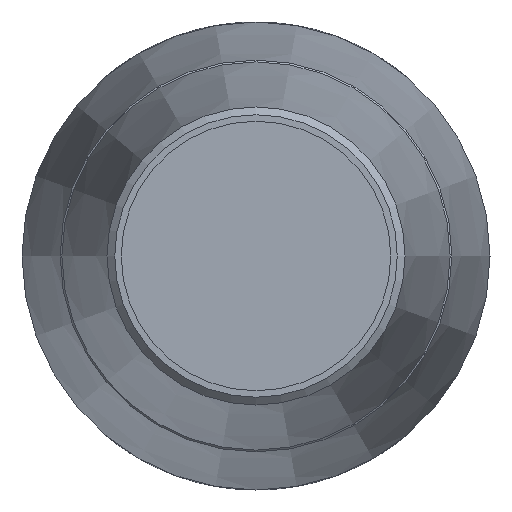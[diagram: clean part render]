
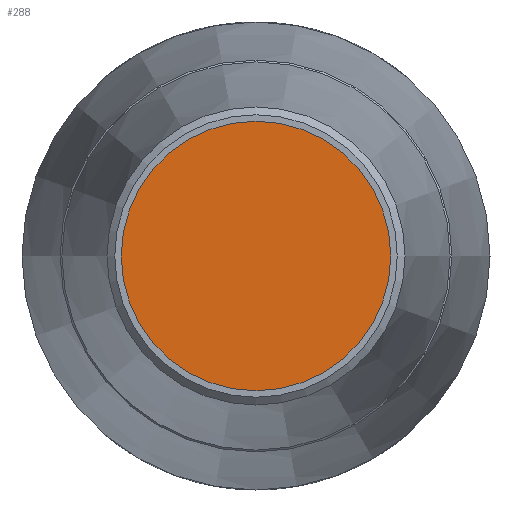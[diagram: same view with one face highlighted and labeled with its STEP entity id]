
A CAD part, left-side view. The second image highlights one B-rep face of the part: STEP entity #288.
In plain terms, the highlighted planar face has unit normal (-1, 0, 0).
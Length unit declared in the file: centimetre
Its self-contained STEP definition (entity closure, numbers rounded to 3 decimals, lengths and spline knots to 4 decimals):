
#42=PLANE('',#323);
#73=FACE_OUTER_BOUND('',#104,.T.);
#104=EDGE_LOOP('',(#210));
#132=CIRCLE('',#322,5.7);
#148=VERTEX_POINT('',#455);
#172=EDGE_CURVE('',#148,#148,#132,.T.);
#210=ORIENTED_EDGE('',*,*,#172,.T.);
#288=ADVANCED_FACE('',(#73),#42,.T.);
#322=AXIS2_PLACEMENT_3D('',#456,#383,#384);
#323=AXIS2_PLACEMENT_3D('',#457,#385,#386);
#383=DIRECTION('center_axis',(-1.,0.,0.));
#384=DIRECTION('ref_axis',(0.,0.,1.));
#385=DIRECTION('center_axis',(-1.,0.,0.));
#386=DIRECTION('ref_axis',(0.,0.,1.));
#455=CARTESIAN_POINT('',(-53.9,-5.7,0.));
#456=CARTESIAN_POINT('Origin',(-53.9,0.,0.));
#457=CARTESIAN_POINT('Origin',(-53.9,0.,0.));
